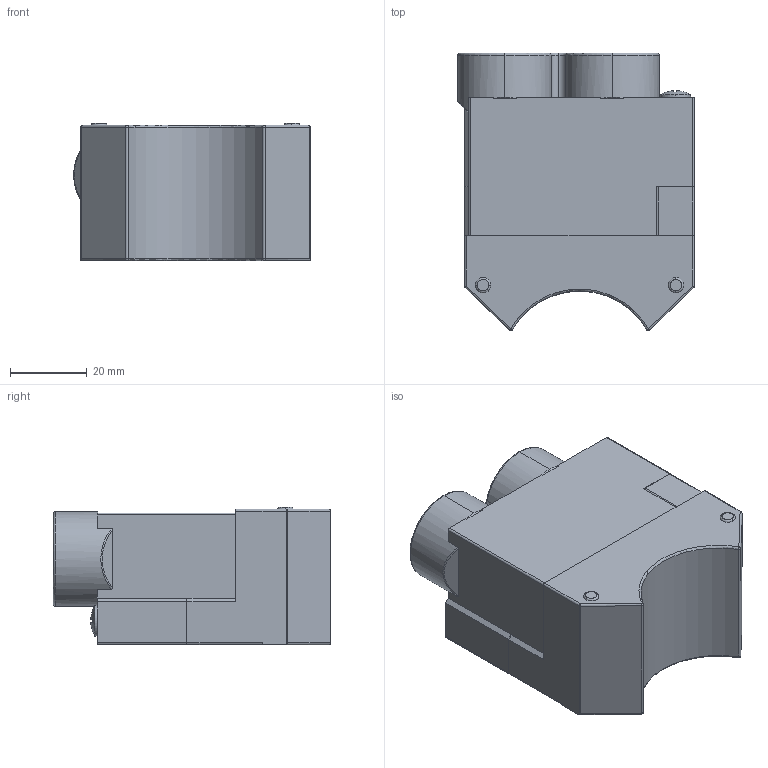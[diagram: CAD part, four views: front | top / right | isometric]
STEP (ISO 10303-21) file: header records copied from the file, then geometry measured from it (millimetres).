
FILE_DESCRIPTION (( 'STEP AP203' ), '1' );
FILE_NAME ('Ni-DSU35TC-X2.step', '2013-07-24T20:58:45', ( 'Turck User' ), ( '' ), 'SwSTEP 2.0', 'SolidWorks 2013', '' );
FILE_SCHEMA (( 'CONFIG_CONTROL_DESIGN' ));
Length unit declared in the file: millimetre
Products named in the file (1): Ni-DSU35TC-X2
Bounding box: 61.85 x 72.5 x 35.9 mm (x, y, z)
Volume: 111298 mm3; surface area: 24552.9 mm2
Topology: 1 solids, 1 shells, 257 faces, 681 edges, 431 vertices
Faces by surface type: plane 87, cylinder 68, cone 59, torus 33, sphere 9, bspline 1
Entity records: 9107 total; most frequent: CARTESIAN_POINT 2744, ORIENTED_EDGE 1338, DIRECTION 1311, EDGE_CURVE 669, AXIS2_PLACEMENT_3D 518, VERTEX_POINT 429, EDGE_LOOP 284, LINE 275
